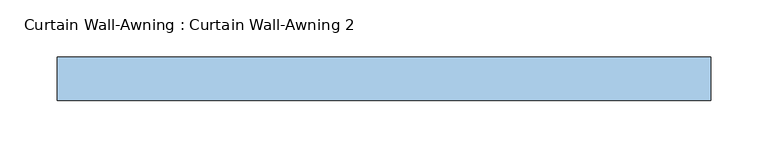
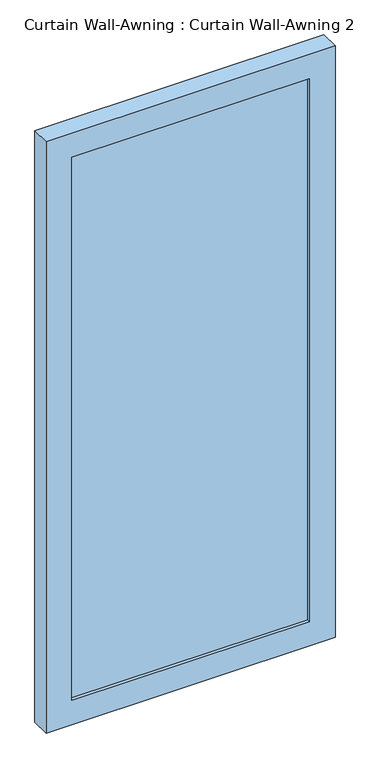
"""IFC4 building model written with IfcOpenShell, lengths in millimetres: window geometry, Curtain Wall-Awning : Curtain Wall-Awning 2."""

from ifc_helpers import new_model, si_unit, frame, origin, place, context, project, spatial, polyline, outline, extrude, source, transform, mapped, element, save


def curtain_wall_awning_curtain_wall_awning_2_e246922d(model_context):
    return source(origin(), model_context, "Body", "SweptSolid", [
        extrude(outline(polyline([(234.95, 19.05), (234.95, 6.35), (-234.95, 6.35), (-234.95, 19.05), (234.95, 19.05)])), frame((0.0, 0.0, 50.8), z_axis=(0.0, 0.0, 1.0), x_axis=(1.0, 0.0, 0.0)), (0.0, 0.0, 1.0), 1134.635445),
        extrude(outline(polyline([(1236.235445, -285.75), (0.0, -285.75), (0.0, 285.75), (1236.235445, 285.75), (1236.235445, -285.75)]), holes=[polyline([(1185.435445, -234.95), (1185.435445, 234.95), (50.8, 234.95), (50.8, -234.95), (1185.435445, -234.95)])]), frame((0.0, 0.0, 0.0), z_axis=(0.0, 1.0, 0.0), x_axis=(0.0, 0.0, 1.0)), (0.0, 0.0, 1.0), 38.1),
    ])


if __name__ == "__main__":
    model = new_model("IFC4")
    model_context = context("Model", 3, world=origin())
    ifc_project = project(units=[si_unit("LENGTHUNIT", "METRE", prefix="MILLI")], contexts=[model_context])
    site = spatial("IfcSite", under=ifc_project)
    building = spatial("IfcBuilding", under=site)
    placement = place(None, origin())
    curtain_wall_awning_curtain_wall_awning_2_shape = curtain_wall_awning_curtain_wall_awning_2_e246922d(model_context)
    element("IfcWindow", 1, ObjectType="Curtain Wall-Awning : Curtain Wall-Awning 2", at=placement, inside=building, context=model_context, shape_type="MappedRepresentation", body=[
        mapped(curtain_wall_awning_curtain_wall_awning_2_shape, transform((0.0, 0.0, 0.0), x_axis=(1.0, 0.0, 0.0), y_axis=(0.0, 1.0, 0.0), z_axis=(0.0, 0.0, 1.0))),
    ])
    save(model, "model.ifc")
